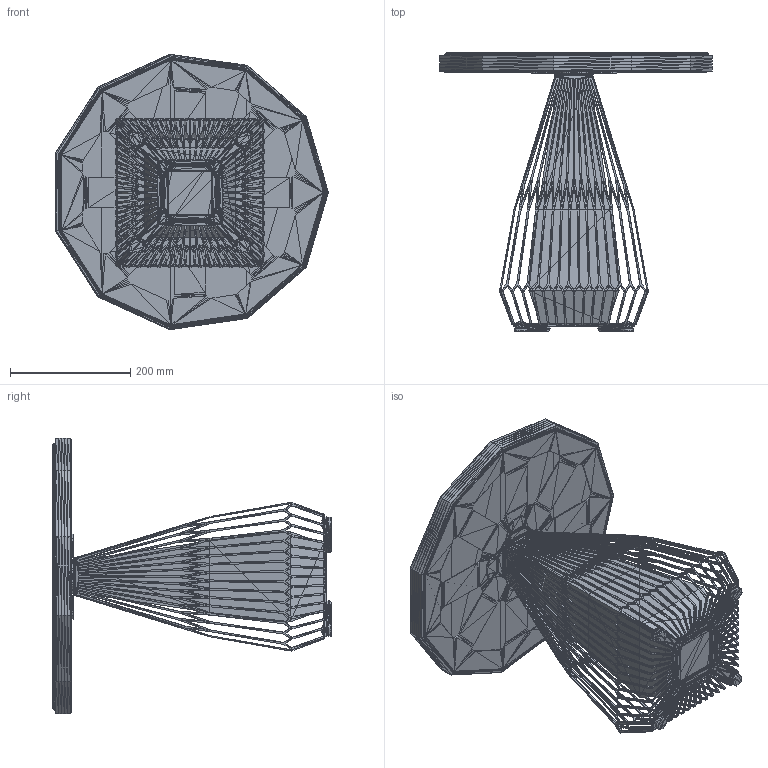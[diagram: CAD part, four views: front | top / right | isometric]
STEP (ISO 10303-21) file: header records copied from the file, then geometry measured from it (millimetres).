
FILE_DESCRIPTION(('FreeCAD Model'),'2;1');
FILE_NAME('Open CASCADE Shape Model','2026-01-20T11:35:44',(''),(''), 'Open CASCADE STEP processor 7.8','FreeCAD','Unknown');
FILE_SCHEMA(('AUTOMOTIVE_DESIGN { 1 0 10303 214 1 1 1 1 }'));
Products named in the file (1): table_1_stl001
Bounding box: 454.08 x 463.68 x 458.54 mm (x, y, z)
Surface area: 1437616.7 mm2 (no closed solid volume)
Topology: 0 solids, 15 shells, 28478 faces, 42717 edges, 13733 vertices
Faces by surface type: plane 28478
Entity records: 554493 total; most frequent: DIRECTION 99675, ORIENTED_EDGE 85434, CARTESIAN_POINT 84929, EDGE_CURVE 42717, LINE 42717, VECTOR 42717, AXIS2_PLACEMENT_3D 28479, ADVANCED_FACE 28478
